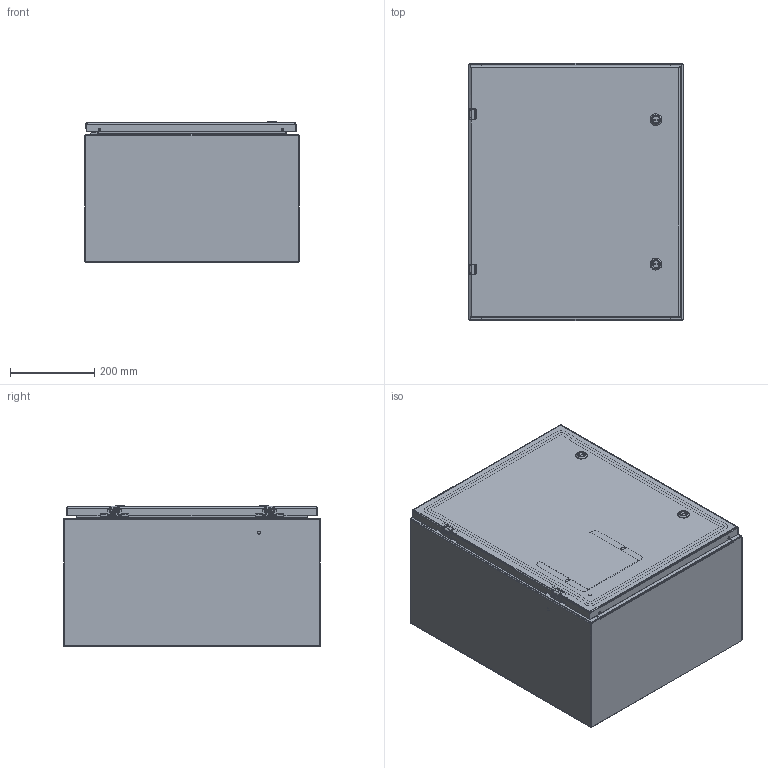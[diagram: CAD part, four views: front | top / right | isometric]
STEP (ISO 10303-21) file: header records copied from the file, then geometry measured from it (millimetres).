
FILE_DESCRIPTION((''),'2;1');
FILE_NAME('MODEL-305_ASM','2022-12-12T12:33:54',('johnh'),('SAGINAW CONTROL & ENGINEERING'),'CREO PARAMETRIC BY PTC INC, 2021284','CREO PARAMETRIC BY PTC INC, 2021284','');
FILE_SCHEMA(('AUTOMOTIVE_DESIGN { 1 0 10303 214 1 1 1 1 }'));
Length unit declared in the file: inch
Products named in the file (28): MODEL-305-BDY; MODEL-305-TP; MODEL-305-BTM; MODEL-305-DR; 100837; 100882; 111541; 100794_SHAFT; 100794_INSERT; 100794_CAM; 100794_NUT; 100794_SCREW; 100794_ASM; MODEL-305-DOOR-GASKET; 126391; 126391_ASM; 126393; 102483; 101226; 101376; 102140; MODEL-305-DOOR-ASSY_ASM; 101653; 122191; SUBPANEL; 100904; SUBPANEL-SUBASSEMBLY_ASM; MODEL-305_ASM
Assembly tree (48 placements, depth 4):
  MODEL-305_ASM
    MODEL-305-BDY
    MODEL-305-TP
    MODEL-305-BTM
    MODEL-305-DOOR-ASSY_ASM
      MODEL-305-DR
      100837  x3
      100882  x2
      111541
      100794_ASM  x2
        100794_SHAFT
        100794_INSERT
        100794_CAM
        100794_NUT
        100794_SCREW
      MODEL-305-DOOR-GASKET
      126391_ASM  x2
        126391
      126393  x2
      102483  x6
      101226  x2
      101376  x2
      102140  x2
    100837
    101653  x4
    122191
    SUBPANEL-SUBASSEMBLY_ASM
      SUBPANEL
      100904  x4
Bounding box: 508 x 609.6 x 335.93 mm (x, y, z)
Volume: 3830506.1 mm3; surface area: 3565729.6 mm2
Topology: 49 solids, 49 shells, 3025 faces, 7690 edges, 4832 vertices
Faces by surface type: plane 1344, cylinder 843, bspline 464, torus 214, cone 104, sphere 56
Entity records: 84598 total; most frequent: CARTESIAN_POINT 24901, ORIENTED_EDGE 8642, DIRECTION 8070, PRESENTATION_STYLE_ASSIGNMENT 4518, EDGE_CURVE 4321, STYLED_ITEM 4243, CURVE_STYLE 4159, AXIS2_PLACEMENT_3D 2932
